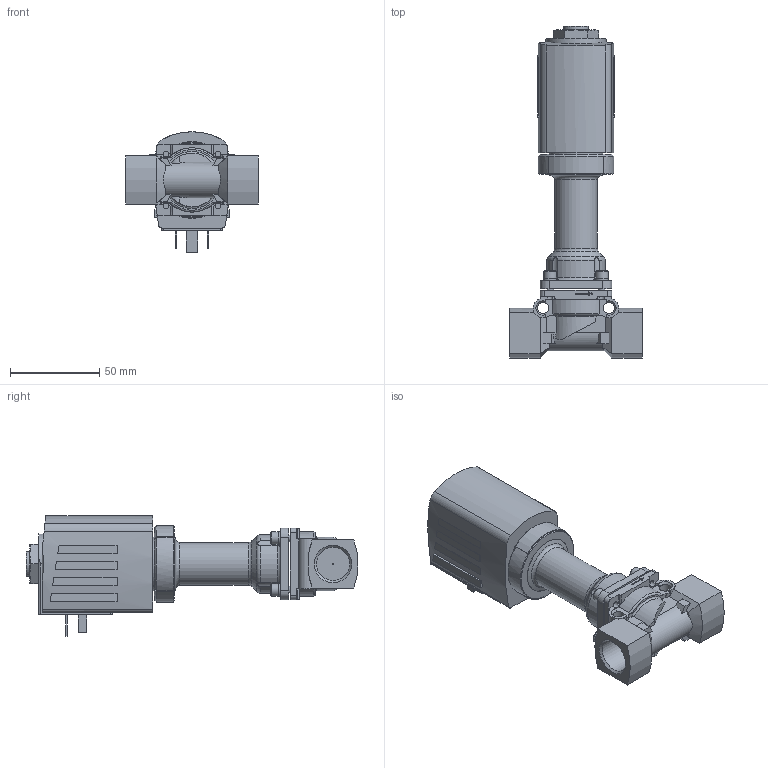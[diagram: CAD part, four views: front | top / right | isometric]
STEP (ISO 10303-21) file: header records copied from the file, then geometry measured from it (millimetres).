
FILE_DESCRIPTION(/* description */ ('STEP AP214'),/* implementation_level */ '2;1');
FILE_NAME(/* name */ '6026-352628-pluger_valve_2_2_Wege_direct-acting',/* time_stamp */ '2024-03-04T13:25:47+01:00',/* author */ ('License CC BY-ND 4.0'),/* organization */ ('CADENAS'),/* preprocessor_version */ 'ST-DEVELOPER v19.3',/* originating_system */ 'PARTsolutions',/* authorisation */ ' ');
FILE_SCHEMA (('AUTOMOTIVE_DESIGN {1 0 10303 214 3 1 1}'));
Length unit declared in the file: millimetre
Products named in the file (4): 6026-352628-pluger valve 2/2 Wege direct-acting; 6026ms centerpiece 0; 6026g-G 1/2MS-pluger valve_body; AC10ex-42SG=k-Plan-Coil
Assembly tree (3 placements, depth 2):
  6026-352628-pluger valve 2/2 Wege direct-acting
    6026ms centerpiece 0
    6026g-G 1/2MS-pluger valve_body
    AC10ex-42SG=k-Plan-Coil
Bounding box: 74.5 x 186.03 x 67.5 mm (x, y, z)
Volume: 246060.3 mm3; surface area: 43601.8 mm2
Topology: 3 solids, 3 shells, 338 faces, 878 edges, 574 vertices
Faces by surface type: plane 197, cylinder 100, cone 26, torus 15
Full cylindrical faces by diameter (mm): 0.4 x1, 2.013 x1, 3.242 x4, 4 x4, 6.3 x2, 7 x4, 7.1 x4, 7.8 x4, 14 x1, 18.631 x2, 24 x1, 30.3 x1, 32 x1, 42.3 x1
Entity records: 11504 total; most frequent: CARTESIAN_POINT 1971, DIRECTION 1732, ORIENTED_EDGE 1636, EDGE_CURVE 818, AXIS2_PLACEMENT_3D 634, VERTEX_POINT 562, LINE 464, VECTOR 464
